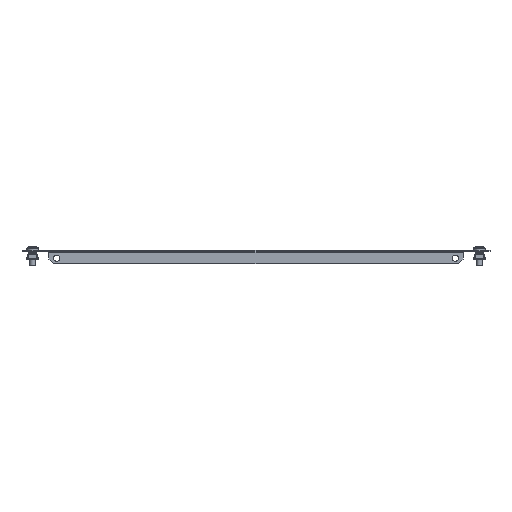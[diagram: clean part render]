
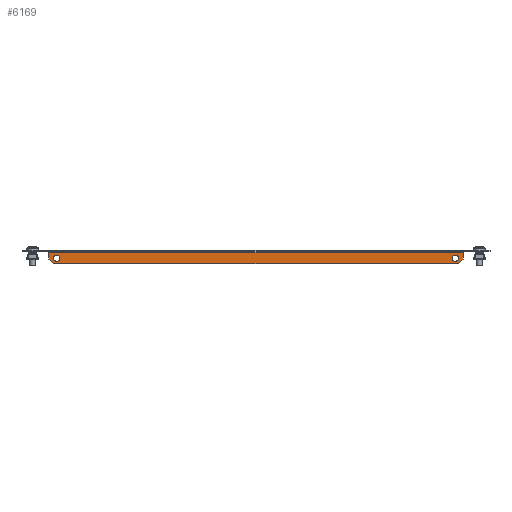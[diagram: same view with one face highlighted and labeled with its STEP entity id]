
A CAD part, front view. The second image highlights one B-rep face of the part: STEP entity #6169.
In plain terms, the highlighted planar face has unit normal (0, -1, 0).
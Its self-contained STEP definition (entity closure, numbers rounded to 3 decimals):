
#48 = DIRECTION ( 'NONE',  ( 1., 0., 0. ) ) ;
#102 = ORIENTED_EDGE ( 'NONE', *, *, #2524, .T. ) ;
#234 = VECTOR ( 'NONE', #7154, 1000. ) ;
#378 = VERTEX_POINT ( 'NONE', #7389 ) ;
#631 = DIRECTION ( 'NONE',  ( -1., 0., 0. ) ) ;
#651 = LINE ( 'NONE', #3907, #2819 ) ;
#732 = EDGE_CURVE ( 'NONE', #2584, #378, #1259, .T. ) ;
#793 = LINE ( 'NONE', #4090, #2137 ) ;
#867 = DIRECTION ( 'NONE',  ( 0., 0., 1. ) ) ;
#953 = CARTESIAN_POINT ( 'NONE',  ( -207., -299.5, -8. ) ) ;
#1126 = VERTEX_POINT ( 'NONE', #8041 ) ;
#1144 = VECTOR ( 'NONE', #631, 1000. ) ;
#1259 = LINE ( 'NONE', #6983, #1144 ) ;
#1326 = ORIENTED_EDGE ( 'NONE', *, *, #5936, .T. ) ;
#1409 = DIRECTION ( 'NONE',  ( 0., 0., -1. ) ) ;
#1434 = AXIS2_PLACEMENT_3D ( 'NONE', #953, #4668, #7180 ) ;
#1535 = DIRECTION ( 'NONE',  ( 0., 0., 1. ) ) ;
#1567 = VERTEX_POINT ( 'NONE', #2965 ) ;
#1670 = CARTESIAN_POINT ( 'NONE',  ( 0., -299.5, 0. ) ) ;
#1945 = CARTESIAN_POINT ( 'NONE',  ( 112., -299.5, -112. ) ) ;
#1982 = EDGE_CURVE ( 'NONE', #1567, #7855, #5725, .T. ) ;
#2137 = VECTOR ( 'NONE', #1409, 1000. ) ;
#2206 = CARTESIAN_POINT ( 'NONE',  ( 215., -299.5, -2. ) ) ;
#2210 = FACE_OUTER_BOUND ( 'NONE', #3118, .T. ) ;
#2266 = EDGE_CURVE ( 'NONE', #7855, #2584, #6502, .T. ) ;
#2268 = ORIENTED_EDGE ( 'NONE', *, *, #6122, .F. ) ;
#2300 = PLANE ( 'NONE',  #3981 ) ;
#2413 = CARTESIAN_POINT ( 'NONE',  ( -207., -299.5, -4.75 ) ) ;
#2520 = VECTOR ( 'NONE', #5756, 1000. ) ;
#2524 = EDGE_CURVE ( 'NONE', #5564, #5564, #5952, .T. ) ;
#2532 = VERTEX_POINT ( 'NONE', #3208 ) ;
#2584 = VERTEX_POINT ( 'NONE', #2206 ) ;
#2819 = VECTOR ( 'NONE', #4450, 1000. ) ;
#2965 = CARTESIAN_POINT ( 'NONE',  ( 210., -299.5, -14. ) ) ;
#3118 = EDGE_LOOP ( 'NONE', ( #1326, #4288, #8146, #4955, #5637, #7494 ) ) ;
#3185 = CARTESIAN_POINT ( 'NONE',  ( 215., -299.5, -9. ) ) ;
#3208 = CARTESIAN_POINT ( 'NONE',  ( 207., -299.5, -4.75 ) ) ;
#3310 = CARTESIAN_POINT ( 'NONE',  ( 215., -299.5, 0. ) ) ;
#3875 = LINE ( 'NONE', #6396, #5311 ) ;
#3907 = CARTESIAN_POINT ( 'NONE',  ( -112., -299.5, -112. ) ) ;
#3947 = VERTEX_POINT ( 'NONE', #5416 ) ;
#3975 = AXIS2_PLACEMENT_3D ( 'NONE', #7366, #6565, #867 ) ;
#3981 = AXIS2_PLACEMENT_3D ( 'NONE', #1670, #6732, #1535 ) ;
#4090 = CARTESIAN_POINT ( 'NONE',  ( -215., -299.5, 0. ) ) ;
#4288 = ORIENTED_EDGE ( 'NONE', *, *, #1982, .T. ) ;
#4450 = DIRECTION ( 'NONE',  ( 0.707, 0., -0.707 ) ) ;
#4668 = DIRECTION ( 'NONE',  ( 0., 1., 0. ) ) ;
#4955 = ORIENTED_EDGE ( 'NONE', *, *, #732, .T. ) ;
#5311 = VECTOR ( 'NONE', #48, 1000. ) ;
#5416 = CARTESIAN_POINT ( 'NONE',  ( -210., -299.5, -14. ) ) ;
#5457 = FACE_BOUND ( 'NONE', #5773, .T. ) ;
#5564 = VERTEX_POINT ( 'NONE', #2413 ) ;
#5637 = ORIENTED_EDGE ( 'NONE', *, *, #8030, .T. ) ;
#5692 = CIRCLE ( 'NONE', #3975, 3.25 ) ;
#5725 = LINE ( 'NONE', #1945, #2520 ) ;
#5756 = DIRECTION ( 'NONE',  ( 0.707, 0., 0.707 ) ) ;
#5773 = EDGE_LOOP ( 'NONE', ( #2268 ) ) ;
#5852 = EDGE_LOOP ( 'NONE', ( #102 ) ) ;
#5936 = EDGE_CURVE ( 'NONE', #3947, #1567, #3875, .T. ) ;
#5952 = CIRCLE ( 'NONE', #1434, 3.25 ) ;
#6122 = EDGE_CURVE ( 'NONE', #2532, #2532, #5692, .T. ) ;
#6169 = ADVANCED_FACE ( 'NONE', ( #5457, #6696, #2210 ), #2300, .T. ) ;
#6396 = CARTESIAN_POINT ( 'NONE',  ( 0., -299.5, -14. ) ) ;
#6502 = LINE ( 'NONE', #3310, #234 ) ;
#6565 = DIRECTION ( 'NONE',  ( 0., -1., 0. ) ) ;
#6696 = FACE_BOUND ( 'NONE', #5852, .T. ) ;
#6732 = DIRECTION ( 'NONE',  ( 0., -1., 0. ) ) ;
#6933 = EDGE_CURVE ( 'NONE', #1126, #3947, #651, .T. ) ;
#6983 = CARTESIAN_POINT ( 'NONE',  ( 0., -299.5, -2. ) ) ;
#7154 = DIRECTION ( 'NONE',  ( 0., 0., 1. ) ) ;
#7180 = DIRECTION ( 'NONE',  ( 0., 0., 1. ) ) ;
#7366 = CARTESIAN_POINT ( 'NONE',  ( 207., -299.5, -8. ) ) ;
#7389 = CARTESIAN_POINT ( 'NONE',  ( -215., -299.5, -2. ) ) ;
#7494 = ORIENTED_EDGE ( 'NONE', *, *, #6933, .T. ) ;
#7855 = VERTEX_POINT ( 'NONE', #3185 ) ;
#8030 = EDGE_CURVE ( 'NONE', #378, #1126, #793, .T. ) ;
#8041 = CARTESIAN_POINT ( 'NONE',  ( -215., -299.5, -9. ) ) ;
#8146 = ORIENTED_EDGE ( 'NONE', *, *, #2266, .T. ) ;
